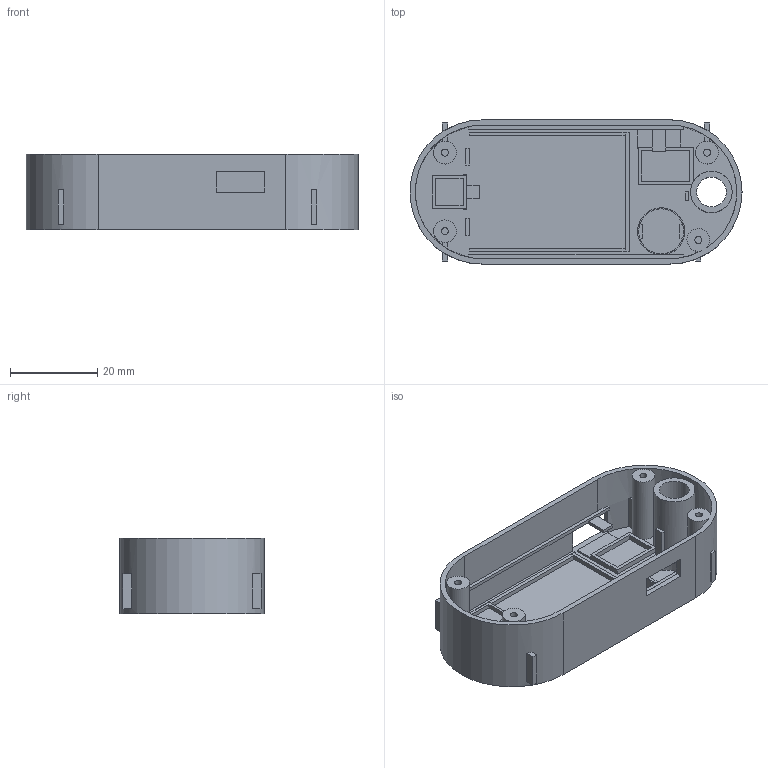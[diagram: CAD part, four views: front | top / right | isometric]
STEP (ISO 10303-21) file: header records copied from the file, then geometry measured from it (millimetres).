
FILE_DESCRIPTION(('Open CASCADE Model'),'2;1');
FILE_NAME('Open CASCADE Shape Model','2026-08-28T00:57:54',('Author'),( 'Open CASCADE'),'Open CASCADE STEP processor 7.8','Open CASCADE 7.8' ,'Unknown');
FILE_SCHEMA(('AUTOMOTIVE_DESIGN { 1 0 10303 214 1 1 1 1 }'));
Length unit declared in the file: millimetre
Products named in the file (1): Open CASCADE STEP translator 7.8 1
Bounding box: 76 x 33 x 17.3 mm (x, y, z)
Volume: 8524.9 mm3; surface area: 14041.9 mm2
Topology: 1 solids, 1 shells, 241 faces, 655 edges, 434 vertices
Faces by surface type: plane 204, cylinder 37
Full cylindrical faces by diameter (mm): 1.6 x4, 5.2 x3, 6.8 x1, 9.5 x1, 10.3 x1, 10.8 x1
Entity records: 16083 total; most frequent: CARTESIAN_POINT 3357, DIRECTION 2238, LINE 1455, VECTOR 1455, ORIENTED_EDGE 1310, PCURVE 1310, DEFINITIONAL_REPRESENTATION 1310, EDGE_CURVE 655
